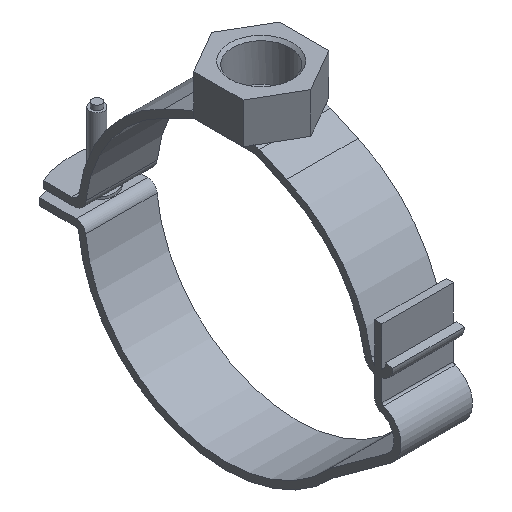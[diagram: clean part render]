
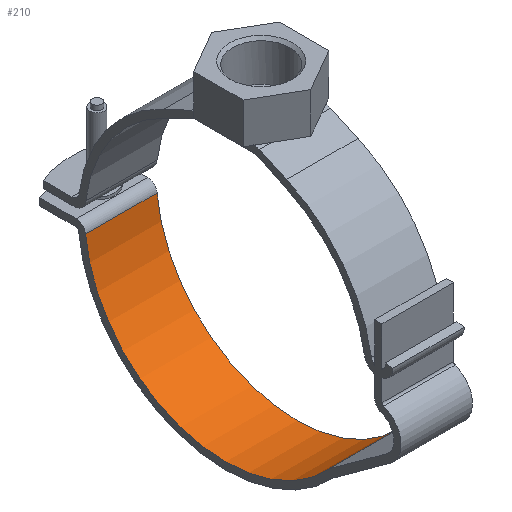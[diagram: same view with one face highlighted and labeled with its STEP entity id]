
A CAD part, isometric view. The second image highlights one B-rep face of the part: STEP entity #210.
In plain terms, the highlighted cylindrical face has radius 59 mm (diameter 118 mm), a partial arc.
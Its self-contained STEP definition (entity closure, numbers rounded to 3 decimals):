
#210 = ADVANCED_FACE( '', ( #440 ), #441, .F. );
#440 = FACE_OUTER_BOUND( '', #679, .T. );
#441 = CYLINDRICAL_SURFACE( '', #680, 59. );
#679 = EDGE_LOOP( '', ( #1275, #1276, #1277, #1278 ) );
#680 = AXIS2_PLACEMENT_3D( '', #1279, #1280, #1281 );
#1275 = ORIENTED_EDGE( '', *, *, #1459, .F. );
#1276 = ORIENTED_EDGE( '', *, *, #1633, .F. );
#1277 = ORIENTED_EDGE( '', *, *, #1614, .T. );
#1278 = ORIENTED_EDGE( '', *, *, #1571, .T. );
#1279 = CARTESIAN_POINT( '', ( 15., 0., 0. ) );
#1280 = DIRECTION( '', ( 1., 0., 0. ) );
#1281 = DIRECTION( '', ( 0., 0., 1. ) );
#1459 = EDGE_CURVE( '', #1775, #1777, #1778, .T. );
#1571 = EDGE_CURVE( '', #1942, #1777, #1943, .T. );
#1614 = EDGE_CURVE( '', #1999, #1942, #2000, .T. );
#1633 = EDGE_CURVE( '', #1999, #1775, #2021, .T. );
#1775 = VERTEX_POINT( '', #2194 );
#1777 = VERTEX_POINT( '', #2196 );
#1778 = CIRCLE( '', #2197, 59. );
#1942 = VERTEX_POINT( '', #2423 );
#1943 = LINE( '', #2424, #2425 );
#1999 = VERTEX_POINT( '', #2498 );
#2000 = CIRCLE( '', #2499, 59. );
#2021 = LINE( '', #2526, #2527 );
#2194 = CARTESIAN_POINT( '', ( -15., -43.212, -40.171 ) );
#2196 = CARTESIAN_POINT( '', ( -15., 58.732, -5.619 ) );
#2197 = AXIS2_PLACEMENT_3D( '', #2666, #2667, #2668 );
#2423 = CARTESIAN_POINT( '', ( 15., 58.732, -5.619 ) );
#2424 = CARTESIAN_POINT( '', ( 15., 58.732, -5.619 ) );
#2425 = VECTOR( '', #2794, 1000. );
#2498 = CARTESIAN_POINT( '', ( 15., -43.212, -40.171 ) );
#2499 = AXIS2_PLACEMENT_3D( '', #2839, #2840, #2841 );
#2526 = CARTESIAN_POINT( '', ( 15., -43.212, -40.171 ) );
#2527 = VECTOR( '', #2869, 1000. );
#2666 = CARTESIAN_POINT( '', ( -15., 0., 0. ) );
#2667 = DIRECTION( '', ( 1., 0., 0. ) );
#2668 = DIRECTION( '', ( 0., 0., -1. ) );
#2794 = DIRECTION( '', ( -1., 0., 0. ) );
#2839 = CARTESIAN_POINT( '', ( 15., 0., 0. ) );
#2840 = DIRECTION( '', ( 1., 0., 0. ) );
#2841 = DIRECTION( '', ( 0., 0., -1. ) );
#2869 = DIRECTION( '', ( -1., 0., 0. ) );
